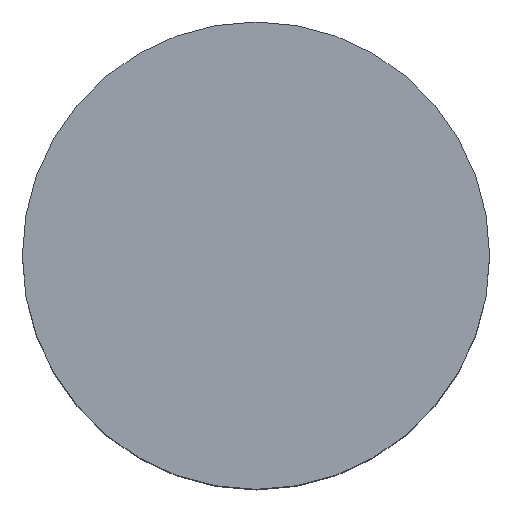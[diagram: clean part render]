
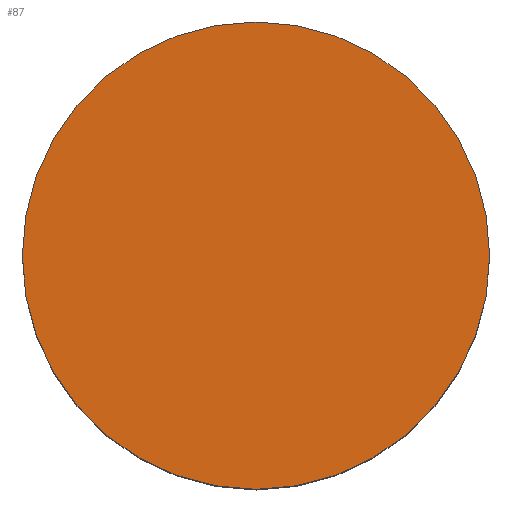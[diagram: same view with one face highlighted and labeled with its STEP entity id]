
A CAD part, top view. The second image highlights one B-rep face of the part: STEP entity #87.
In plain terms, the highlighted planar face has unit normal (0, 0, 1).
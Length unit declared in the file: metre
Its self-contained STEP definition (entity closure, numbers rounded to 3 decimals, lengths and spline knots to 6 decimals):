
#28=FACE_OUTER_BOUND('',#36,.T.);
#36=EDGE_LOOP('',(#69));
#44=CIRCLE('',#113,0.05);
#50=VERTEX_POINT('',#160);
#56=EDGE_CURVE('',#50,#50,#44,.T.);
#69=ORIENTED_EDGE('',*,*,#56,.T.);
#82=PLANE('',#114);
#87=ADVANCED_FACE('',(#28),#82,.T.);
#113=AXIS2_PLACEMENT_3D('',#161,#132,#133);
#114=AXIS2_PLACEMENT_3D('',#163,#135,#136);
#132=DIRECTION('center_axis',(0.,0.,1.));
#133=DIRECTION('ref_axis',(-1.,0.,0.));
#135=DIRECTION('center_axis',(0.,0.,1.));
#136=DIRECTION('ref_axis',(1.,0.,0.));
#160=CARTESIAN_POINT('',(0.05,0.,0.08));
#161=CARTESIAN_POINT('Origin',(0.,0.,0.08));
#163=CARTESIAN_POINT('Origin',(0.,0.,0.08));
